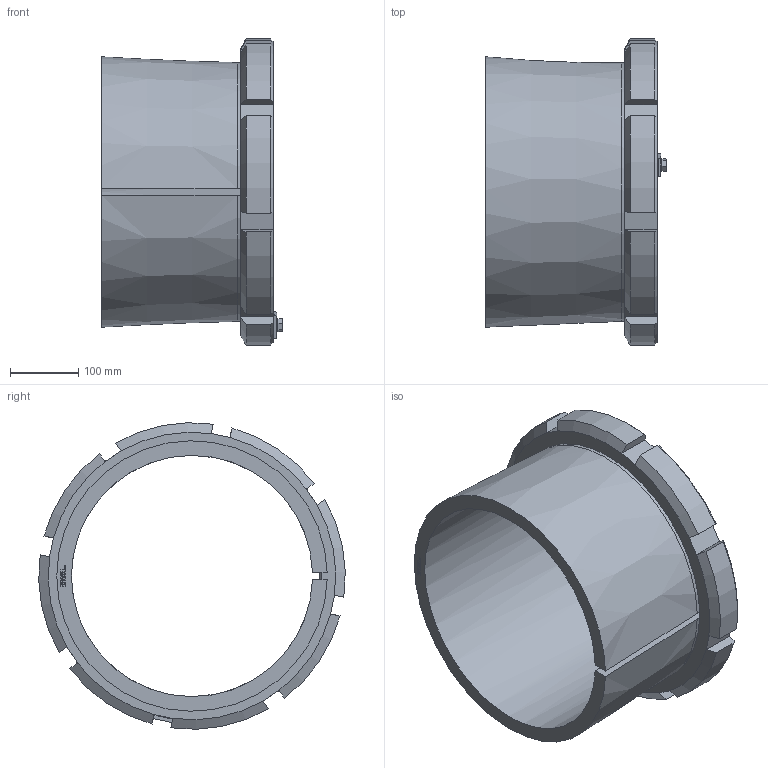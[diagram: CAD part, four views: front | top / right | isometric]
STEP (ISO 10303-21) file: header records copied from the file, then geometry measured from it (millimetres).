
FILE_DESCRIPTION( ( 'STEP AP203' ), ' ' );
FILE_NAME( 'p:/temp/worker_344/3628_2220/app_90_02016102822480801713190192d056f_000000_00_00_000000/format_0/BGL HA 3176 TL+23176K.stp', '2016-10-28T20:48:09', ( '' ), ( '' ), ' ', 'PARTsolutions', ' ' );
FILE_SCHEMA( ( 'CONFIG_CONTROL_DESIGN' ) );
Length unit declared in the file: millimetre
Products named in the file (5): BGL HA 3176 TL+23176K; _BGLHA3176TLB; _BGL HM 3076; _BGL MS 3076-BGL MS 3080part; _BGL MS 3076-BGL MS 3080HHS
Assembly tree (4 placements, depth 2):
  BGL HA 3176 TL+23176K
    _BGLHA3176TLB
    _BGL HM 3076
    _BGL MS 3076-BGL MS 3080part
    _BGL MS 3076-BGL MS 3080HHS
Bounding box: 265.36 x 449.84 x 449.84 mm (x, y, z)
Volume: 6835037.4 mm3; surface area: 849543.4 mm2
Topology: 4 solids, 4 shells, 335 faces, 873 edges, 573 vertices
Faces by surface type: plane 224, cylinder 74, cone 37
Full cylindrical faces by diameter (mm): 10 x9, 12 x1, 18.1 x1, 375 x1
Entity records: 10417 total; most frequent: CARTESIAN_POINT 2063, ORIENTED_EDGE 1694, DIRECTION 1663, EDGE_CURVE 847, LINE 575, VECTOR 575, VERTEX_POINT 570, AXIS2_PLACEMENT_3D 544
